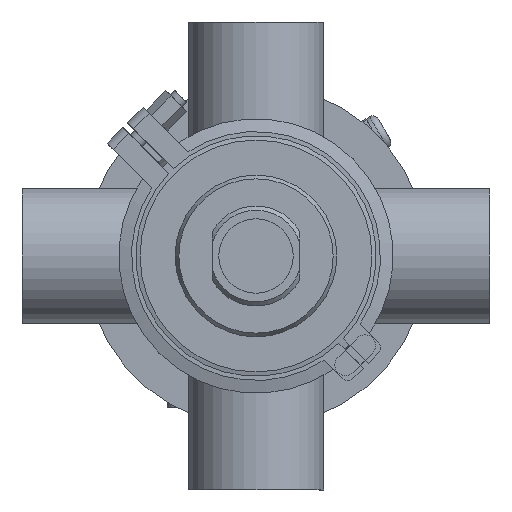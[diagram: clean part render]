
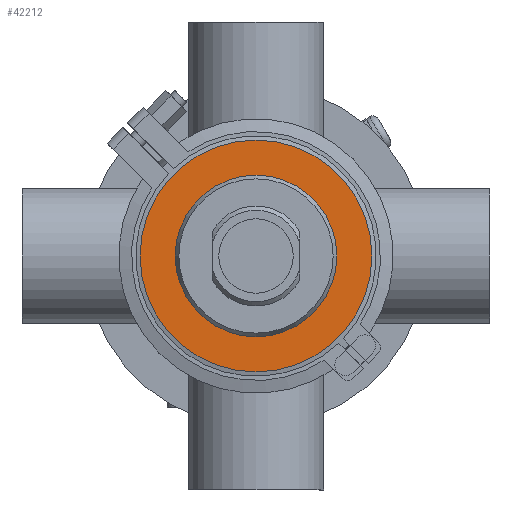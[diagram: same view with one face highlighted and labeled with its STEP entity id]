
A CAD part, front view. The second image highlights one B-rep face of the part: STEP entity #42212.
In plain terms, the highlighted planar face has unit normal (0, -1, 0).
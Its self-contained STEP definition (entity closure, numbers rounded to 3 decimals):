
#1329 = CIRCLE ( 'NONE', #37217, 54.5 ) ;
#3852 = CARTESIAN_POINT ( 'NONE',  ( 0., -13., 54.5 ) ) ;
#5011 = PLANE ( 'NONE',  #40076 ) ;
#5358 = DIRECTION ( 'NONE',  ( 0., 0., 1. ) ) ;
#7990 = DIRECTION ( 'NONE',  ( 0., 1., 0. ) ) ;
#10310 = EDGE_LOOP ( 'NONE', ( #33437 ) ) ;
#11063 = DIRECTION ( 'NONE',  ( 0., 0., -1. ) ) ;
#13156 = VERTEX_POINT ( 'NONE', #3852 ) ;
#13460 = CARTESIAN_POINT ( 'NONE',  ( 0., -13., 0. ) ) ;
#14798 = EDGE_CURVE ( 'NONE', #13156, #13156, #1329, .T. ) ;
#17946 = VERTEX_POINT ( 'NONE', #48175 ) ;
#20033 = CARTESIAN_POINT ( 'NONE',  ( -54.5, -13., 0. ) ) ;
#23370 = DIRECTION ( 'NONE',  ( 0., 0., 1. ) ) ;
#26398 = ORIENTED_EDGE ( 'NONE', *, *, #14798, .F. ) ;
#27670 = AXIS2_PLACEMENT_3D ( 'NONE', #13460, #7990, #23370 ) ;
#33437 = ORIENTED_EDGE ( 'NONE', *, *, #52948, .T. ) ;
#35299 = EDGE_LOOP ( 'NONE', ( #26398 ) ) ;
#37217 = AXIS2_PLACEMENT_3D ( 'NONE', #53563, #49051, #5358 ) ;
#39943 = DIRECTION ( 'NONE',  ( 0., -1., 0. ) ) ;
#40076 = AXIS2_PLACEMENT_3D ( 'NONE', #20033, #39943, #11063 ) ;
#40981 = CIRCLE ( 'NONE', #27670, 38. ) ;
#42212 = ADVANCED_FACE ( 'NONE', ( #52919, #49008 ), #5011, .T. ) ;
#48175 = CARTESIAN_POINT ( 'NONE',  ( 0., -13., 38. ) ) ;
#49008 = FACE_OUTER_BOUND ( 'NONE', #35299, .T. ) ;
#49051 = DIRECTION ( 'NONE',  ( 0., 1., 0. ) ) ;
#52919 = FACE_BOUND ( 'NONE', #10310, .T. ) ;
#52948 = EDGE_CURVE ( 'NONE', #17946, #17946, #40981, .T. ) ;
#53563 = CARTESIAN_POINT ( 'NONE',  ( 0., -13., 0. ) ) ;
